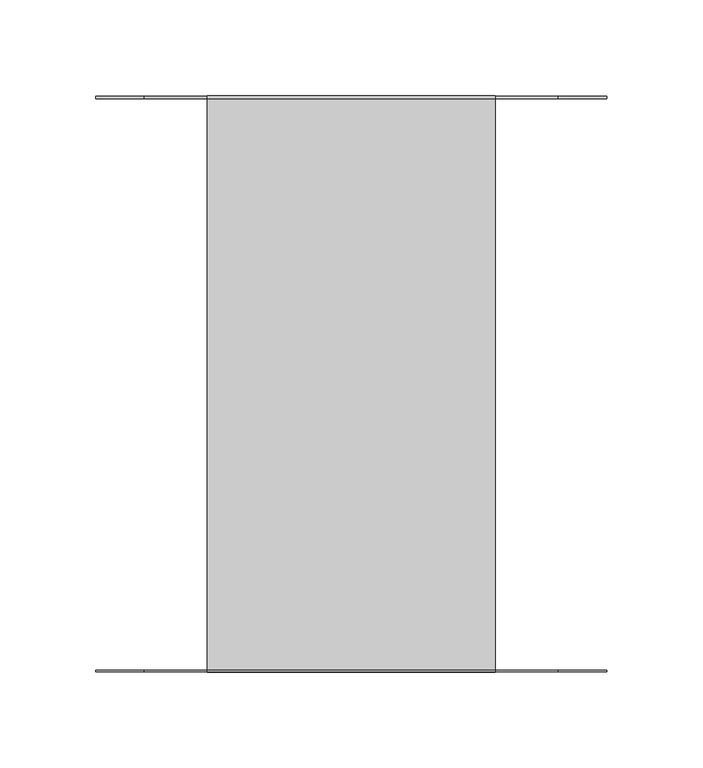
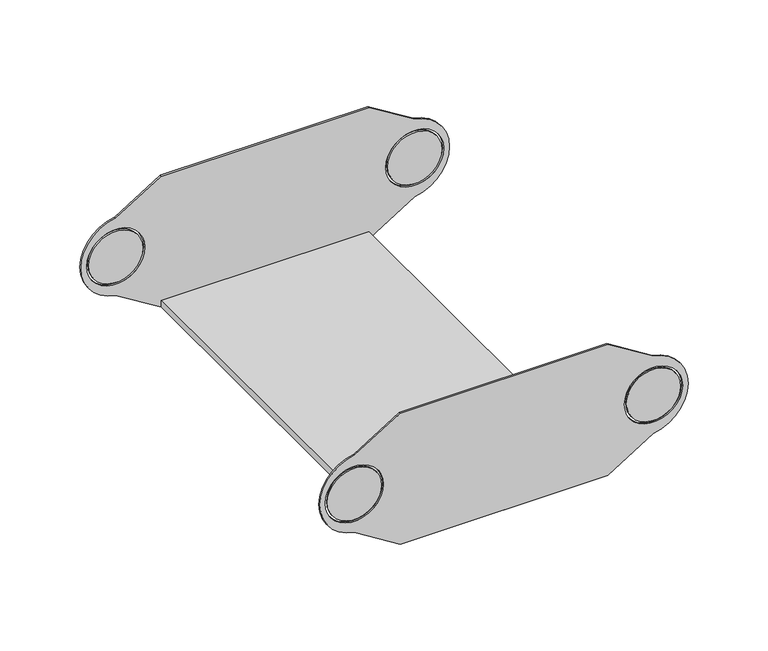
"""IFC4 building model written with IfcOpenShell, lengths in millimetres: cable carrier fitting geometry, BAKS_BEND_Adjustable vertical bend element_EL : ELP_H100."""

import ifcopenshell
import ifcopenshell.guid

model = None  # the IFC model being written
_history = None  # IfcOwnerHistory: only IFC2X3 demands one
_inside = {}  # id of a spatial element -> (the spatial element, [elements in it])
_under = {}  # id of a project, library or spatial element -> (it, [spatial elements below it])
_declared = {}  # id of a project -> (the project, [libraries it declares])
_typed = {}  # id of a type object -> (the type object, [elements of that type])
_made_of = {}  # id of a material, layer set ... -> (it, [elements and type objects made of it])


def new_model(schema):
    """Start an empty IFC model of exactly this schema.

    Asked for "IFC4X3", IfcOpenShell would pick the latest addendum, in which some entities
    have other attributes; the version numbers below select the first issue.
    IFC2X3 requires an IfcOwnerHistory on every rooted entity: one is made here for all.
    """
    global model, _history
    if schema == "IFC4X3":
        model = ifcopenshell.file(schema_version=(4, 3, 0, 0))
    else:
        model = ifcopenshell.file(schema=schema)
    _inside.clear()
    _under.clear()
    _declared.clear()
    _typed.clear()
    _made_of.clear()
    _history = None
    if model.schema == "IFC2X3":
        org = make("IfcOrganization", Name="unknown")
        user = make(
            "IfcPersonAndOrganization",
            ThePerson=make("IfcPerson", FamilyName="unknown"),
            TheOrganization=org,
        )
        app = make(
            "IfcApplication",
            ApplicationDeveloper=org,
            Version="unknown",
            ApplicationFullName="unknown",
            ApplicationIdentifier="unknown",
        )
        _history = make(
            "IfcOwnerHistory",
            OwningUser=user,
            OwningApplication=app,
            ChangeAction="ADDED",
            CreationDate=0,
        )
    return model


def make(cls, **values):
    """One entity of the class cls with the attributes given. An attribute that is None is left unset."""
    return model.create_entity(
        cls, **{name: value for name, value in values.items() if value is not None}
    )


def rooted(cls, **values):
    """An entity with a GlobalId (a new one), such as an element, a storey or a relation."""
    return make(cls, GlobalId=ifcopenshell.guid.new(), OwnerHistory=_history, **values)


def si_unit(unit_type, name, prefix=None):
    """IfcSIUnit, for example si_unit("LENGTHUNIT", "METRE", prefix="MILLI")."""
    return make("IfcSIUnit", UnitType=unit_type, Prefix=prefix, Name=name)


def assignment(units):
    """IfcUnitAssignment: the units of a project."""
    return None if units is None else make("IfcUnitAssignment", Units=units)


def point(xyz):
    """IfcCartesianPoint."""
    return None if xyz is None else make("IfcCartesianPoint", Coordinates=xyz)


def direction(xyz):
    """IfcDirection."""
    return None if xyz is None else make("IfcDirection", DirectionRatios=xyz)


def frame(location, z_axis=None, x_axis=None):
    """IfcAxis2Placement3D, a coordinate frame: its origin and axes. An axis left out is left unset."""
    return make(
        "IfcAxis2Placement3D",
        Location=point(location),
        Axis=direction(z_axis),
        RefDirection=direction(x_axis),
    )


def frame_2d(location, x_axis=None):
    """IfcAxis2Placement2D, a coordinate frame in the plane: its origin and x axis."""
    return make(
        "IfcAxis2Placement2D", Location=point(location), RefDirection=direction(x_axis)
    )


def origin():
    """The frame at (0, 0, 0) with its axes left unset."""
    return frame((0.0, 0.0, 0.0))


def place(relative_to, where):
    """IfcLocalPlacement: puts the frame where relative to a parent placement (None: the world)."""
    return make(
        "IfcLocalPlacement", PlacementRelTo=relative_to, RelativePlacement=where
    )


def context(
    kind, dimensions, precision=None, world=None, true_north=None, identifier=None
):
    """IfcGeometricRepresentationContext, for example the 3D "Model" context."""
    return make(
        "IfcGeometricRepresentationContext",
        ContextIdentifier=identifier,
        ContextType=kind,
        CoordinateSpaceDimension=dimensions,
        Precision=precision,
        WorldCoordinateSystem=world,
        TrueNorth=true_north,
    )


def project(units=None, contexts=None):
    """IfcProject with its units and contexts."""
    return rooted(
        "IfcProject",
        Name="project",
        RepresentationContexts=contexts,
        UnitsInContext=assignment(units),
    )


def spatial(cls, under=None, at=None, **own):
    """A site, building, storey or space (cls), placed at a placement, below another one or the project."""
    s = rooted(cls, ObjectPlacement=at, **own)
    if under is not None:
        _under.setdefault(under.id(), (under, []))[1].append(s)
    return s


def polyline(points):
    """IfcPolyline through the points."""
    return make("IfcPolyline", Points=[point(p) for p in points])


def circle_curve(where, radius):
    """IfcCircle in the frame where."""
    return make("IfcCircle", Position=where, Radius=radius)


def trimmed(basis, trim1, trim2, sense, master):
    """IfcTrimmedCurve: the piece of a basis curve between two trims."""
    return make(
        "IfcTrimmedCurve",
        BasisCurve=basis,
        Trim1=trim1,
        Trim2=trim2,
        SenseAgreement=sense,
        MasterRepresentation=master,
    )


def segment(curve, same_sense, transition):
    """IfcCompositeCurveSegment."""
    return make(
        "IfcCompositeCurveSegment",
        Transition=transition,
        SameSense=same_sense,
        ParentCurve=curve,
    )


def composite_curve(segments, self_intersect=None):
    """IfcCompositeCurve: segments joined end to end."""
    return make("IfcCompositeCurve", Segments=segments, SelfIntersect=self_intersect)


def outline(outer, holes=None, kind="AREA"):
    """IfcArbitraryClosedProfileDef: a profile drawn as a closed curve; with holes, ...WithVoids."""
    if holes is None:
        return make("IfcArbitraryClosedProfileDef", ProfileType=kind, OuterCurve=outer)
    return make(
        "IfcArbitraryProfileDefWithVoids",
        ProfileType=kind,
        OuterCurve=outer,
        InnerCurves=holes,
    )


def extrude(swept, where, along, depth):
    """IfcExtrudedAreaSolid: the profile swept, set in the frame where, extruded along a direction by depth."""
    return make(
        "IfcExtrudedAreaSolid",
        SweptArea=swept,
        Position=where,
        ExtrudedDirection=direction(along),
        Depth=depth,
    )


def shape(context_of_items, identifier, shape_type, items):
    """IfcShapeRepresentation: the items that make up one representation, for example the "Body"."""
    return make(
        "IfcShapeRepresentation",
        ContextOfItems=context_of_items,
        RepresentationIdentifier=identifier,
        RepresentationType=shape_type,
        Items=items,
    )


def source(mapping_origin, context_of_items, identifier, shape_type, items):
    """IfcRepresentationMap: a shape defined once, which mapped items show again and again."""
    return make(
        "IfcRepresentationMap",
        MappingOrigin=mapping_origin,
        MappedRepresentation=shape(context_of_items, identifier, shape_type, items),
    )


def transform(
    local_origin,
    x_axis=None,
    y_axis=None,
    z_axis=None,
    scale=None,
    scale2=None,
    scale3=None,
    uniform=True,
):
    """IfcCartesianTransformationOperator3D, or its non-uniform kind. x_axis, y_axis, z_axis: its Axis1, 2, 3."""
    if uniform:
        return make(
            "IfcCartesianTransformationOperator3D",
            Axis1=direction(x_axis),
            Axis2=direction(y_axis),
            LocalOrigin=point(local_origin),
            Scale=scale,
            Axis3=direction(z_axis),
        )
    return make(
        "IfcCartesianTransformationOperator3DnonUniform",
        Axis1=direction(x_axis),
        Axis2=direction(y_axis),
        LocalOrigin=point(local_origin),
        Scale=scale,
        Axis3=direction(z_axis),
        Scale2=scale2,
        Scale3=scale3,
    )


def mapped(mapping_source, mapping_target):
    """IfcMappedItem: shows the shape of a source again, moved by a transform."""
    return make(
        "IfcMappedItem", MappingSource=mapping_source, MappingTarget=mapping_target
    )


def made_of(thing, what):
    """Note that an element or type object is made of a material, layer set ...; save() writes the relation."""
    if what is not None:
        _made_of.setdefault(what.id(), (what, []))[1].append(thing)
    return thing


def element(
    cls,
    number,
    at=None,
    inside=None,
    cuts=None,
    type_object=None,
    material=None,
    context=None,
    identifier="Body",
    shape_type=None,
    held_by="IfcProductDefinitionShape",
    body=None,
    shapes=None,
    **own,
):
    """One element of the class cls, such as IfcWall. Its Tag is "e" and its number.

    at: its placement. inside: the storey or other place that contains it. cuts: it is an
    opening in that element (IfcRelVoidsElement). A single representation is given by context,
    identifier, shape_type and body (its items); several are given by shapes. held_by: the class
    of the entity that holds the representations. save() writes the other relations.
    """
    e = rooted(cls, Tag="e%d" % number, ObjectPlacement=at, **own)
    if body is not None:
        shapes = [shape(context, identifier, shape_type, body)]
    if shapes is not None:
        e.Representation = make(held_by, Representations=shapes)
    if inside is not None:
        _inside.setdefault(inside.id(), (inside, []))[1].append(e)
    if cuts is not None:
        rooted(
            "IfcRelVoidsElement", RelatingBuildingElement=cuts, RelatedOpeningElement=e
        )
    if type_object is not None:
        _typed.setdefault(type_object.id(), (type_object, []))[1].append(e)
    return made_of(e, material)


def aggregate(whole, parts):
    """IfcRelAggregates: a whole, such as a stair, and the parts it consists of."""
    return rooted("IfcRelAggregates", RelatingObject=whole, RelatedObjects=parts)


def save(model, path):
    """Write the relations noted so far, then the file.

    IfcRelAggregates (storeys below a building ...), IfcRelContainedInSpatialStructure (elements
    in a storey), IfcRelDefinesByType, IfcRelAssociatesMaterial and IfcRelDeclares: one each for
    every whole, place, type object, material and project.
    """
    for whole, parts in _under.values():
        aggregate(whole, parts)
    for where, things in _inside.values():
        rooted(
            "IfcRelContainedInSpatialStructure",
            RelatedElements=things,
            RelatingStructure=where,
        )
    for kind, things in _typed.values():
        rooted("IfcRelDefinesByType", RelatedObjects=things, RelatingType=kind)
    for what, things in _made_of.values():
        rooted("IfcRelAssociatesMaterial", RelatedObjects=things, RelatingMaterial=what)
    for by, libraries in _declared.values():
        rooted("IfcRelDeclares", RelatingContext=by, RelatedDefinitions=libraries)
    model.write(path)


def cable_carrier_fitting_cb057536(model_context):
    return source(origin(), model_context, "Body", "SweptSolid", [
        extrude(outline(composite_curve([segment(trimmed(circle_curve(frame_2d((0.0, 25.0)), 19.5), [point((0.0, 5.5))], [point((0.0, 44.5))], False, "CARTESIAN"), True, "CONTINUOUS"), segment(trimmed(circle_curve(frame_2d((0.0, 25.0)), 19.5), [point((0.0, 44.5))], [point((0.0, 5.5))], False, "CARTESIAN"), True, "CONTINUOUS")], self_intersect=False)), frame((0.0, -150.0, 0.0), z_axis=(0.0, 1.0, 0.0), x_axis=(0.0, 0.0, 1.0)), (0.0, 0.0, 1.0), 1.0),
        extrude(outline(composite_curve([segment(trimmed(circle_curve(frame_2d((0.0, 241.0)), 19.5), [point((0.0, 221.5))], [point((0.0, 260.5))], False, "CARTESIAN"), True, "CONTINUOUS"), segment(trimmed(circle_curve(frame_2d((0.0, 241.0)), 19.5), [point((0.0, 260.5))], [point((0.0, 221.5))], False, "CARTESIAN"), True, "CONTINUOUS")], self_intersect=False)), frame((0.0, -150.0, 0.0), z_axis=(0.0, 1.0, 0.0), x_axis=(0.0, 0.0, 1.0)), (0.0, 0.0, 1.0), 1.0),
        extrude(outline(composite_curve([segment(polyline([(50.0, 208.0), (50.0, 58.0), (29.6036089, 25.1393069)]), True, "CONTINUOUS"), segment(trimmed(circle_curve(frame_2d((0.0, 30.0)), 30.0), [point((29.6036089, 25.1393069))], [point((-29.5803989, 25.0))], False, "CARTESIAN"), True, "CONTINUOUS"), segment(polyline([(-29.5803989, 25.0), (-50.0, 58.0), (-50.0, 208.0), (-29.5803989, 241.0)]), True, "CONTINUOUS"), segment(trimmed(circle_curve(frame_2d((0.0, 236.0)), 30.0), [point((-29.5803989, 241.0))], [point((29.6036089, 240.8606931))], False, "CARTESIAN"), True, "CONTINUOUS"), segment(polyline([(29.6036089, 240.8606931), (50.0, 208.0)]), True, "CONTINUOUS")], self_intersect=False), holes=[composite_curve([segment(trimmed(circle_curve(frame_2d((0.0, 25.0)), 21.0), [point((0.0, 4.0))], [point((0.0, 46.0))], True, "CARTESIAN"), True, "CONTINUOUS"), segment(trimmed(circle_curve(frame_2d((0.0, 25.0)), 21.0), [point((0.0, 46.0))], [point((0.0, 4.0))], True, "CARTESIAN"), True, "CONTINUOUS")], self_intersect=False), composite_curve([segment(trimmed(circle_curve(frame_2d((0.0, 241.0)), 21.0), [point((0.0, 220.0))], [point((0.0, 262.0))], True, "CARTESIAN"), True, "CONTINUOUS"), segment(trimmed(circle_curve(frame_2d((0.0, 241.0)), 21.0), [point((0.0, 262.0))], [point((0.0, 220.0))], True, "CARTESIAN"), True, "CONTINUOUS")], self_intersect=False)]), frame((0.0, -150.0, 0.0), z_axis=(0.0, 1.0, 0.0), x_axis=(0.0, 0.0, 1.0)), (0.0, 0.0, 1.0), 1.0),
        extrude(outline(polyline([(208.0, -150.0), (58.0, -150.0), (58.0, 150.0), (208.0, 150.0), (208.0, -150.0)])), frame((0.0, 0.0, -50.0), z_axis=(0.0, 0.0, 1.0), x_axis=(1.0, 0.0, 0.0)), (0.0, 0.0, 1.0), 5.0),
        extrude(outline(composite_curve([segment(polyline([(50.0, 208.0), (50.0, 58.0), (29.6036089, 25.1393069)]), True, "CONTINUOUS"), segment(trimmed(circle_curve(frame_2d((0.0, 30.0)), 30.0), [point((29.6036089, 25.1393069))], [point((-29.5803989, 25.0))], False, "CARTESIAN"), True, "CONTINUOUS"), segment(polyline([(-29.5803989, 25.0), (-50.0, 58.0), (-50.0, 208.0), (-29.5803989, 241.0)]), True, "CONTINUOUS"), segment(trimmed(circle_curve(frame_2d((0.0, 236.0)), 30.0), [point((-29.5803989, 241.0))], [point((29.6036089, 240.8606931))], False, "CARTESIAN"), True, "CONTINUOUS"), segment(polyline([(29.6036089, 240.8606931), (50.0, 208.0)]), True, "CONTINUOUS")], self_intersect=False), holes=[composite_curve([segment(trimmed(circle_curve(frame_2d((0.0, 25.0)), 21.0), [point((0.0, 4.0))], [point((0.0, 46.0))], True, "CARTESIAN"), True, "CONTINUOUS"), segment(trimmed(circle_curve(frame_2d((0.0, 25.0)), 21.0), [point((0.0, 46.0))], [point((0.0, 4.0))], True, "CARTESIAN"), True, "CONTINUOUS")], self_intersect=False), composite_curve([segment(trimmed(circle_curve(frame_2d((0.0, 241.0)), 21.0), [point((0.0, 220.0))], [point((0.0, 262.0))], True, "CARTESIAN"), True, "CONTINUOUS"), segment(trimmed(circle_curve(frame_2d((0.0, 241.0)), 21.0), [point((0.0, 262.0))], [point((0.0, 220.0))], True, "CARTESIAN"), True, "CONTINUOUS")], self_intersect=False)]), frame((0.0, 148.5, 0.0), z_axis=(0.0, 1.0, 0.0), x_axis=(0.0, 0.0, 1.0)), (0.0, 0.0, 1.0), 1.5),
        extrude(outline(composite_curve([segment(trimmed(circle_curve(frame_2d((0.0, 25.0)), 19.5), [point((0.0, 5.5))], [point((0.0, 44.5))], False, "CARTESIAN"), True, "CONTINUOUS"), segment(trimmed(circle_curve(frame_2d((0.0, 25.0)), 19.5), [point((0.0, 44.5))], [point((0.0, 5.5))], False, "CARTESIAN"), True, "CONTINUOUS")], self_intersect=False)), frame((0.0, 148.5, 0.0), z_axis=(0.0, 1.0, 0.0), x_axis=(0.0, 0.0, 1.0)), (0.0, 0.0, 1.0), 1.5),
        extrude(outline(composite_curve([segment(trimmed(circle_curve(frame_2d((0.0, 241.0)), 19.5), [point((0.0, 221.5))], [point((0.0, 260.5))], False, "CARTESIAN"), True, "CONTINUOUS"), segment(trimmed(circle_curve(frame_2d((0.0, 241.0)), 19.5), [point((0.0, 260.5))], [point((0.0, 221.5))], False, "CARTESIAN"), True, "CONTINUOUS")], self_intersect=False)), frame((0.0, 148.5, 0.0), z_axis=(0.0, 1.0, 0.0), x_axis=(0.0, 0.0, 1.0)), (0.0, 0.0, 1.0), 1.5),
    ])


if __name__ == "__main__":
    model = new_model("IFC4")
    model_context = context("Model", 3, world=origin())
    ifc_project = project(units=[si_unit("LENGTHUNIT", "METRE", prefix="MILLI")], contexts=[model_context])
    site = spatial("IfcSite", under=ifc_project)
    building = spatial("IfcBuilding", under=site)
    placement = place(None, origin())
    cable_carrier_fitting_shape = cable_carrier_fitting_cb057536(model_context)
    element("IfcCableCarrierFitting", 1, ObjectType="BAKS_BEND_Adjustable vertical bend element_EL : ELP_H100", at=placement, inside=building, context=model_context, shape_type="MappedRepresentation", body=[
        mapped(cable_carrier_fitting_shape, transform((0.0, 0.0, 0.0), x_axis=(1.0, 0.0, 0.0), y_axis=(0.0, 1.0, 0.0), z_axis=(0.0, 0.0, 1.0))),
    ])
    save(model, "model.ifc")
